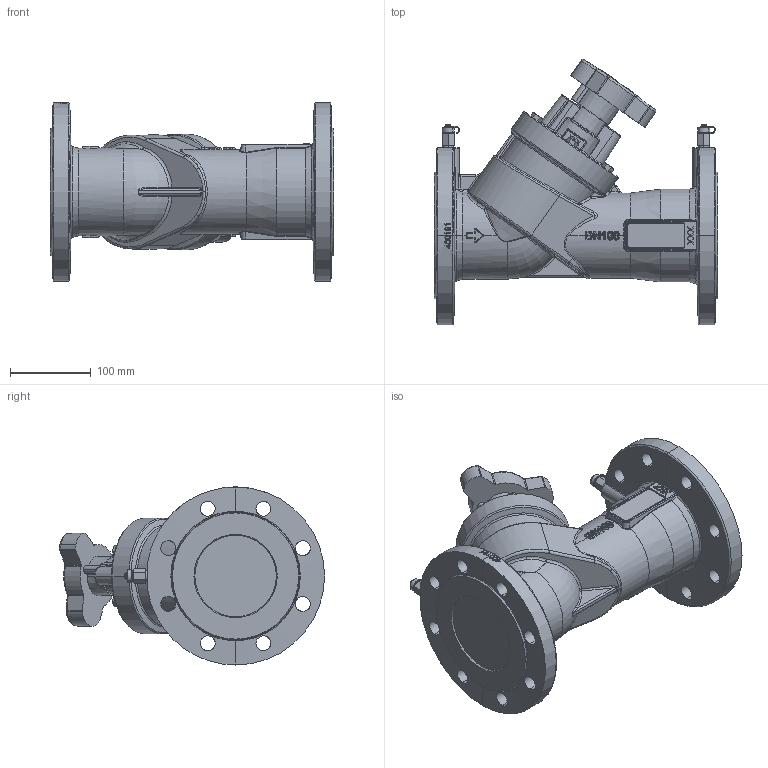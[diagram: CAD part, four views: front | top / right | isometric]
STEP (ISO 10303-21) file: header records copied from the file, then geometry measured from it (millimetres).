
FILE_DESCRIPTION (( 'STEP AP203' ), '1' );
FILE_NAME ('EKOFLUX.S010016P.STEP', '2021-09-14T06:55:16', ( '' ), ( '' ), 'SwSTEP 2.0', 'SolidWorks 2017', '' );
FILE_SCHEMA (( 'CONFIG_CONTROL_DESIGN' ));
Length unit declared in the file: millimetre
Products named in the file (1): EKOFLUX.S010016P
Bounding box: 350 x 327.71 x 220 mm (x, y, z)
Volume: 6083331.4 mm3; surface area: 381900.6 mm2
Topology: 1 solids, 23 shells, 1700 faces, 4251 edges, 2643 vertices
Faces by surface type: plane 559, bspline 471, cylinder 362, cone 185, torus 96, sphere 27
Entity records: 77139 total; most frequent: CARTESIAN_POINT 40870, ORIENTED_EDGE 8426, DIRECTION 6149, EDGE_CURVE 4213, VERTEX_POINT 2643, AXIS2_PLACEMENT_3D 2293, EDGE_LOOP 1832, ADVANCED_FACE 1700
